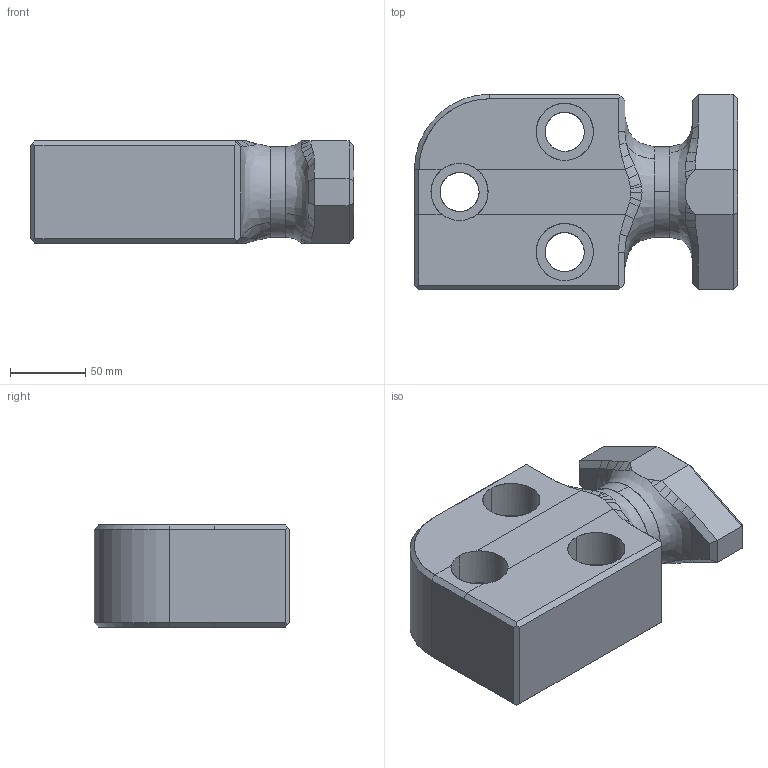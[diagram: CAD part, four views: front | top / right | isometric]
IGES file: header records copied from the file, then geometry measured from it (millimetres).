
Global section: file name: E:\UnigraphicsGraphicData\MISUMI_PRESS-PARTS\IGES\3d_chu60l_03570_r00.igs; native system: NX V5.0; preprocessor: UGS NX IGES V5.0; author: MISUMI; date: 20110105.160242; units: millimetre
Bounding box: 215 x 130 x 68 mm (x, y, z)
Surface area: 106903.5 mm2 (no closed solid volume)
Topology: 0 solids, 0 shells, 126 faces, 836 edges, 836 vertices
Faces by surface type: bspline 126
